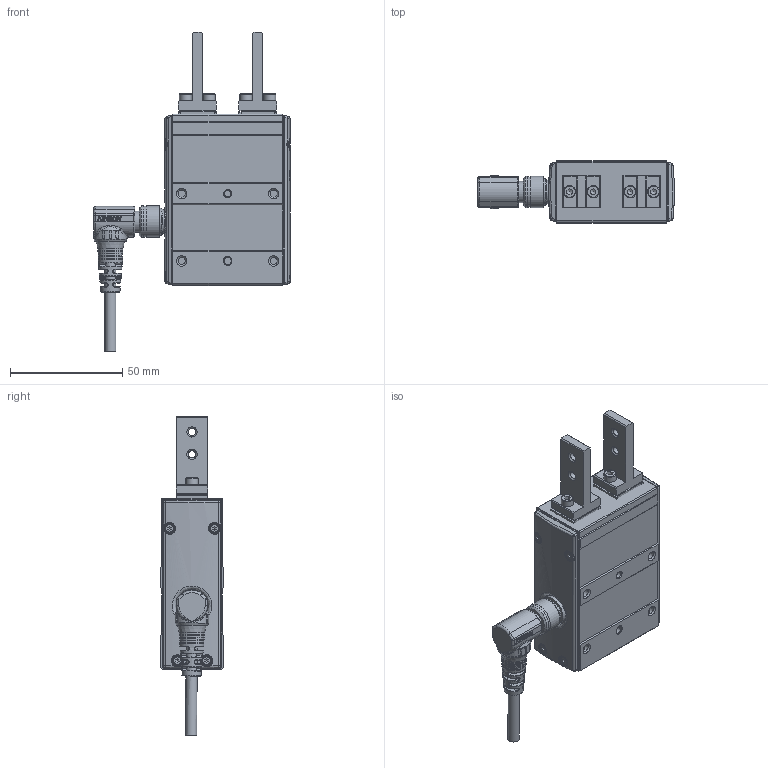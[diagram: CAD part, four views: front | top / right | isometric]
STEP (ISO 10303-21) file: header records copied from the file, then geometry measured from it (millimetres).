
FILE_DESCRIPTION(/* description */ (''),/* implementation_level */ '2;1');
FILE_NAME(/* name */ 'D:\2025.02.25 帶電匯整給泊舟\7. CHZ2系列\CHZ2-N10-WW.stp',/* time_stamp */ '2025-02-26T10:20:34+08:00',/* author */ ('T10033'),/* organization */ (''),/* preprocessor_version */ 'ST-DEVELOPER v18.1',/* originating_system */ 'Autodesk Inventor 2020',/* authorisation */ '');
FILE_SCHEMA (('CONFIG_CONTROL_DESIGN'));
Products named in the file (9): CHZ2-S10-WL; 11003-001130_珠溝研磨(單顆); 12008-000058; 慶陞金屬頭; 7 32T634TSSE3R_Shrinkwrap_1; 43T63T643; 夾頭-正式版; ANSI B18.3.1M - M3x0.5 x 10, FSHCSM; M12-14PIN 線端90度接頭-05中繼線
Assembly tree (14 placements, depth 3):
  CHZ2-S10-WL
    11003-001130_珠溝研磨(單顆)  x2
    12008-000058  x4
    慶陞金屬頭
    7 32T634TSSE3R_Shrinkwrap_1
    43T63T643  x2
      夾頭-正式版
      ANSI B18.3.1M - M3x0.5 x 10, FSHCSM
    M12-14PIN 線端90度接頭-05中繼線
Bounding box: 87.8 x 28 x 142.52 mm (x, y, z)
Volume: 124698.3 mm3; surface area: 42566.8 mm2
Topology: 41 solids, 45 shells, 2320 faces, 6351 edges, 4216 vertices
Faces by surface type: plane 1148, cylinder 512, cone 364, bspline 166, torus 110, sphere 20
Full cylindrical faces by diameter (mm): 0.6 x14, 0.65 x14, 1 x18, 1.567 x8, 2 x8, 2.013 x8, 2.459 x6, 3 x15, 3.2 x4, 3.242 x16, 3.8 x16, 4 x2, 5 x1, 5.5 x8, 6.647 x2, 8 x3, 8.9 x1, 9.5 x2, 9.6 x1, 10.5 x2, 10.9 x1, 11 x2, 11.2 x1, 11.25 x1, 12 x1, 13 x1, 13.8 x1, 14 x2, 14.4 x1
Entity records: 92648 total; most frequent: CARTESIAN_POINT 35972, ORIENTED_EDGE 11512, DIRECTION 11399, EDGE_CURVE 5764, AXIS2_PLACEMENT_3D 4332, VERTEX_POINT 3842, LINE 2735, VECTOR 2735
